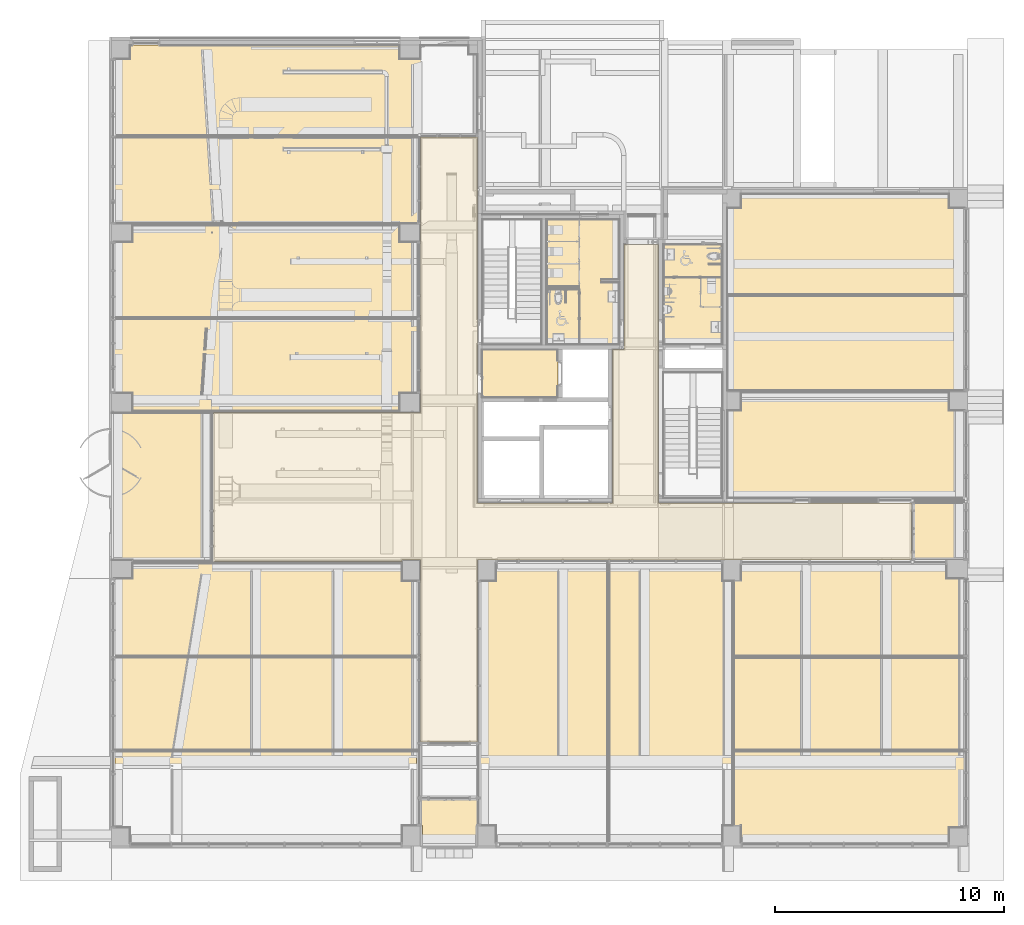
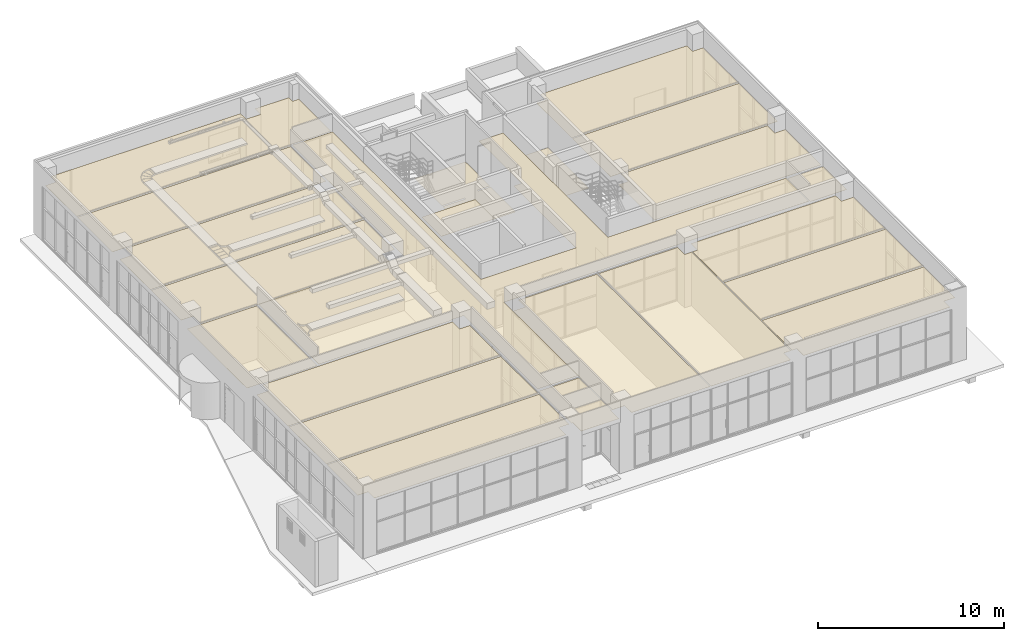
# One storey, part 83 of 100: 22 coverings.
"""IFC2X3 building model written with IfcOpenShell, lengths in millimetres."""

from ifc_helpers import new_model, entity, si_unit, converted_unit, derived_unit, direction, frame, frame_2d, origin, origin_2d_with_axis, place, context, subcontext, project, spatial, polyline, rectangle, outline, extrude, material, layer, layer_set, layer_usage, type_object, element, save


model = new_model("IFC2X3")

# Units and contexts
model_context = context("Model", 3, precision=0.01, world=origin(), true_north=direction((6.123031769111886e-17, 1.0)))
body_context = subcontext(model_context, "Body", "Model", "MODEL_VIEW")
ifc_project = project(units=[si_unit("LENGTHUNIT", "METRE", prefix="MILLI"), si_unit("AREAUNIT", "SQUARE_METRE"), si_unit("VOLUMEUNIT", "CUBIC_METRE"), converted_unit("PLANEANGLEUNIT", "DEGREE", entity("IfcRatioMeasure", 0.017453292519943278), si_unit("PLANEANGLEUNIT", "RADIAN"), dimensions=[0, 0, 0, 0, 0, 0, 0]), si_unit("MASSUNIT", "GRAM", prefix="KILO"), derived_unit("MASSDENSITYUNIT", [(si_unit("MASSUNIT", "GRAM", prefix="KILO"), 1), (si_unit("LENGTHUNIT", "METRE"), -3)]), derived_unit("MOMENTOFINERTIAUNIT", [(si_unit("LENGTHUNIT", "METRE"), 4)]), si_unit("TIMEUNIT", "SECOND"), si_unit("FREQUENCYUNIT", "HERTZ"), si_unit("THERMODYNAMICTEMPERATUREUNIT", "DEGREE_CELSIUS"), derived_unit("THERMALTRANSMITTANCEUNIT", [(si_unit("MASSUNIT", "GRAM", prefix="KILO"), 1), (si_unit("THERMODYNAMICTEMPERATUREUNIT", "KELVIN"), -1), (si_unit("TIMEUNIT", "SECOND"), -3)]), derived_unit("VOLUMETRICFLOWRATEUNIT", [(si_unit("LENGTHUNIT", "METRE"), 3), (si_unit("TIMEUNIT", "SECOND"), -1)]), derived_unit("MASSFLOWRATEUNIT", [(si_unit("MASSUNIT", "GRAM", prefix="KILO"), 1), (si_unit("TIMEUNIT", "SECOND"), -1)]), derived_unit("ROTATIONALFREQUENCYUNIT", [(si_unit("TIMEUNIT", "SECOND"), -1)]), si_unit("ELECTRICCURRENTUNIT", "AMPERE"), si_unit("ELECTRICVOLTAGEUNIT", "VOLT"), si_unit("POWERUNIT", "WATT"), si_unit("FORCEUNIT", "NEWTON", prefix="KILO"), si_unit("ILLUMINANCEUNIT", "LUX"), si_unit("LUMINOUSFLUXUNIT", "LUMEN"), si_unit("LUMINOUSINTENSITYUNIT", "CANDELA"), derived_unit("USERDEFINED", [(si_unit("MASSUNIT", "GRAM", prefix="KILO"), -1), (si_unit("LENGTHUNIT", "METRE"), -2), (si_unit("TIMEUNIT", "SECOND"), 3), (si_unit("LUMINOUSFLUXUNIT", "LUMEN"), 1)]), derived_unit("SOUNDPOWERUNIT", [(si_unit("MASSUNIT", "GRAM", prefix="KILO"), 1), (si_unit("LENGTHUNIT", "METRE"), 2), (si_unit("TIMEUNIT", "SECOND"), -3)]), derived_unit("SOUNDPRESSUREUNIT", [(si_unit("MASSUNIT", "GRAM", prefix="KILO"), 1), (si_unit("LENGTHUNIT", "METRE"), -1), (si_unit("TIMEUNIT", "SECOND"), -2)]), derived_unit("LINEARVELOCITYUNIT", [(si_unit("LENGTHUNIT", "METRE"), 1), (si_unit("TIMEUNIT", "SECOND"), -1)]), si_unit("PRESSUREUNIT", "PASCAL"), derived_unit("USERDEFINED", [(si_unit("LENGTHUNIT", "METRE"), -2), (si_unit("MASSUNIT", "GRAM", prefix="KILO"), 1), (si_unit("TIMEUNIT", "SECOND"), -2)]), derived_unit("LINEARFORCEUNIT", [(si_unit("MASSUNIT", "GRAM", prefix="KILO"), 1), (si_unit("LENGTHUNIT", "METRE"), 1), (si_unit("TIMEUNIT", "SECOND"), -2), (si_unit("LENGTHUNIT", "METRE"), -1)]), derived_unit("PLANARFORCEUNIT", [(si_unit("MASSUNIT", "GRAM", prefix="KILO"), 1), (si_unit("LENGTHUNIT", "METRE"), 1), (si_unit("TIMEUNIT", "SECOND"), -2), (si_unit("LENGTHUNIT", "METRE"), -2)])], contexts=[model_context])

# Site, building, storey, space
site_placement = place(None, frame((-14167.972527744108, -657.2125860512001, 0.0)))
site = spatial("IfcSite", under=ifc_project, at=site_placement, Name="Default", CompositionType="ELEMENT")
building_placement = place(site_placement, origin())
building = spatial("IfcBuilding", under=site, at=building_placement, Name="Sample Building", CompositionType="ELEMENT")
storey_placement = place(building_placement, origin())
storey = spatial("IfcBuildingStorey", under=building, at=storey_placement, Name="지상 1층", CompositionType="ELEMENT", Elevation=0.0)
space_1_placement = place(storey_placement, origin())
space_1 = spatial("IfcSpace", under=storey, at=space_1_placement, Name="171", CompositionType="ELEMENT", InteriorOrExteriorSpace="INTERNAL")

# Covering
ifc_material_1 = material(Name="CE782-경량철골천장틀(M-Bar) 천장")
ifc_layer_1 = layer(ifc_material_1, 1.0)
ifc_material_2 = material(Name="CE761-열경화성수지 천장 (300x300x1.2mm)")
ifc_layer_2 = layer(ifc_material_2, 1.0)
ifc_layer_set_1 = layer_set([ifc_layer_1, ifc_layer_2], Name="복합 천장:A1-45-06A-경량철골천장틀(M-Bar), 열경화성수지(300x300x1.2mm) (2mm) TYPE-D")
ifc_layer_usage_1 = layer_usage(ifc_layer_set_1, "AXIS3", "POSITIVE", 0.0)
covering_type_1 = type_object("IfcCoveringType", Name="복합 천장:A1-45-06A-경량철골천장틀(M-Bar), 열경화성수지(300x300x1.2mm) (2mm) TYPE-D", PredefinedType="CEILING")
covering_1_placement = place(space_1_placement, origin())
element("IfcCovering", 1, at=covering_1_placement, inside=space_1, type_object=covering_type_1, material=ifc_layer_usage_1, Name="복합 천장:A1-45-06A-경량철골천장틀(M-Bar), 열경화성수지(300x300x1.2mm) (2mm) TYPE-D", ObjectType="복합 천장:A1-45-06A-경량철골천장틀(M-Bar), 열경화성수지(300x300x1.2mm) (2mm) TYPE-D", PredefinedType="CEILING", context=body_context, shape_type="SweptSolid", body=[
    extrude(rectangle(XDim=2600.0000000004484, YDim=4399.999996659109, at=origin_2d_with_axis()), frame((39467.963798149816, 24657.212296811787, 1690.0), z_axis=(0.0, 0.0, 1.0), x_axis=(-1.0, 0.0, 0.0)), (0.0, 0.0, 1.0), 2.0000000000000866),
])

# Space
space_2_placement = place(storey_placement, origin())
space_2 = spatial("IfcSpace", under=storey, at=space_2_placement, Name="148", CompositionType="ELEMENT", InteriorOrExteriorSpace="INTERNAL")

# Covering
ifc_layer_3 = layer(ifc_material_1, 1.0)
ifc_material_3 = material(Name="CE742-무석면텍스 천장 (시멘트계천장재) (6mm)")
ifc_layer_4 = layer(ifc_material_3, 6.0)
ifc_layer_set_2 = layer_set([ifc_layer_3, ifc_layer_4], Name="복합 천장:A1-44-11A-경량철골천장틀(M-Bar), 무석면텍스 (7mm)")
ifc_layer_usage_2 = layer_usage(ifc_layer_set_2, "AXIS3", "POSITIVE", 0.0)
covering_type_2 = type_object("IfcCoveringType", Name="복합 천장:A1-44-11A-경량철골천장틀(M-Bar), 무석면텍스 (7mm)", PredefinedType="CEILING")
covering_2_placement = place(space_2_placement, origin())
element("IfcCovering", 2, at=covering_2_placement, inside=space_2, type_object=covering_type_2, material=ifc_layer_usage_2, Name="복합 천장:A1-44-11A-경량철골천장틀(M-Bar), 무석면텍스 (7mm)", ObjectType="복합 천장:A1-44-11A-경량철골천장틀(M-Bar), 무석면텍스 (7mm)", PredefinedType="CEILING", context=body_context, shape_type="SweptSolid", body=[
    extrude(outline(polyline([(-1069.6379425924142, -10565.40828236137), (2292.8965898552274, -10565.40828236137), (2292.896589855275, 2709.6091036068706), (2255.396589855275, 2709.6091036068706), (2255.396589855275, 2809.6091036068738), (2199.8965898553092, 2809.6091036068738), (2199.8965898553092, 5307.762426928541), (-1269.637970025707, 5307.762426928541), (-1269.637970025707, 4909.600374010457), (-1669.6379571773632, 4909.600374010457), (-1669.6379571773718, 2809.6091036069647), (-1069.6379425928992, 2809.6091036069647), (-1069.6379425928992, 1909.6091036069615), (-1669.6379571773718, 1909.6091036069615), (-1669.6379571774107, -9890.390933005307), (-1069.6379425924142, -9890.390933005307), (-1069.6379425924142, -10565.40828236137)])), frame((24758.363387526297, 33887.57433796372, 3580.0), z_axis=(0.0, 0.0, 1.0), x_axis=(0.0, -1.0, 0.0)), (0.0, 0.0, 1.0), 7.000000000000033),
])

# Space
space_3_placement = place(storey_placement, origin())
space_3 = spatial("IfcSpace", under=storey, at=space_3_placement, Name="166", CompositionType="ELEMENT", InteriorOrExteriorSpace="INTERNAL")

# Covering
ifc_layer_usage_3 = layer_usage(ifc_layer_set_2, "AXIS3", "POSITIVE", 0.0)
covering_type_3 = type_object("IfcCoveringType", Name="복합 천장:A1-44-11A-경량철골천장틀(M-Bar), 무석면텍스 (7mm)", PredefinedType="CEILING")
covering_3_placement = place(space_3_placement, origin())
element("IfcCovering", 3, at=covering_3_placement, inside=space_3, type_object=covering_type_3, material=ifc_layer_usage_3, Name="복합 천장:A1-44-11A-경량철골천장틀(M-Bar), 무석면텍스 (7mm)", ObjectType="복합 천장:A1-44-11A-경량철골천장틀(M-Bar), 무석면텍스 (7mm)", PredefinedType="CEILING", context=body_context, shape_type="SweptSolid", body=[
    extrude(outline(polyline([(-1994.7580651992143, 1931.6594011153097), (13994.116735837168, 1931.6594011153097), (13994.116735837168, 4429.812724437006), (1946.6166121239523, 4429.812724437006), (1946.6166121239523, 13484.82141742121), (-4545.848426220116, 13484.82141742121), (-4545.848426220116, 5229.812724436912), (-4490.848704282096, 5229.812724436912), (-4490.848704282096, 4429.812724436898), (-12445.883387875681, 4429.812724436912), (-12445.883387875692, 1929.812724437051), (-4490.848629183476, 1929.8127244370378), (-4490.848629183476, -17025.187275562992), (-1990.848717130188, -17025.187275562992), (-1990.848717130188, -5970.178582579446), (9309.151282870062, -5970.178582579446), (9309.151282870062, -4470.178582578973), (4709.151299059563, -4470.178582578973), (4709.151299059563, -3970.187275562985), (-1994.7580651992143, -3970.1872755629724), (-1994.7580651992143, 1931.6594011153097)])), frame((31997.785215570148, 17548.06101227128, 3630.0), z_axis=(0.0, 0.0, 1.0), x_axis=(0.0, 1.0, 0.0)), (0.0, 0.0, 1.0), 7.000000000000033),
])

# Space
space_4_placement = place(storey_placement, origin())
space_4 = spatial("IfcSpace", under=storey, at=space_4_placement, Name="149", CompositionType="ELEMENT", InteriorOrExteriorSpace="INTERNAL")

# Covering
ifc_layer_usage_4 = layer_usage(ifc_layer_set_2, "AXIS3", "POSITIVE", 0.0)
covering_type_4 = type_object("IfcCoveringType", Name="복합 천장:A1-44-11A-경량철골천장틀(M-Bar), 무석면텍스 (7mm)", PredefinedType="CEILING")
covering_4_placement = place(space_4_placement, origin())
element("IfcCovering", 4, at=covering_4_placement, inside=space_4, type_object=covering_type_4, material=ifc_layer_usage_4, Name="복합 천장:A1-44-11A-경량철골천장틀(M-Bar), 무석면텍스 (7mm)", ObjectType="복합 천장:A1-44-11A-경량철골천장틀(M-Bar), 무석면텍스 (7mm)", PredefinedType="CEILING", context=body_context, shape_type="SweptSolid", body=[
    extrude(rectangle(XDim=13275.025209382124, YDim=3774.9651620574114, at=frame_2d((1.4097167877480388e-11, -4.320099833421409e-12), x_axis=(1.0, 0.0))), frame((20830.46770985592, 29644.695167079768, 3580.0)), (0.0, 0.0, 1.0), 7.000000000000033),
])

# Space
space_5_placement = place(storey_placement, origin())
space_5 = spatial("IfcSpace", under=storey, at=space_5_placement, Name="150", CompositionType="ELEMENT", InteriorOrExteriorSpace="INTERNAL")

# Covering
ifc_layer_usage_5 = layer_usage(ifc_layer_set_2, "AXIS3", "POSITIVE", 0.0)
covering_type_5 = type_object("IfcCoveringType", Name="복합 천장:A1-44-11A-경량철골천장틀(M-Bar), 무석면텍스 (7mm)", PredefinedType="CEILING")
covering_5_placement = place(space_5_placement, origin())
element("IfcCovering", 5, at=covering_5_placement, inside=space_5, type_object=covering_type_5, material=ifc_layer_usage_5, Name="복합 천장:A1-44-11A-경량철골천장틀(M-Bar), 무석면텍스 (7mm)", ObjectType="복합 천장:A1-44-11A-경량철골천장틀(M-Bar), 무석면텍스 (7mm)", PredefinedType="CEILING", context=body_context, shape_type="SweptSolid", body=[
    extrude(outline(polyline([(-1378.1338794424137, 5856.093797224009), (-1378.1338794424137, -5843.906294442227), (-640.6336013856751, -5843.906294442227), (-640.6336013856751, -6643.914081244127), (2659.401082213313, -6643.914081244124), (2659.40108221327, 6631.72657846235), (-640.63360138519, 6631.72657846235), (-640.63360138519, 5856.093797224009), (-1378.1338794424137, 5856.093797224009)])), frame((20824.066233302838, 26316.578706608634, 3580.0), z_axis=(0.0, 0.0, -1.0), x_axis=(0.0, -1.0, 0.0)), (0.0, 0.0, -1.0), 7.000000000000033),
])

# Space
space_6_placement = place(storey_placement, origin())
space_6 = spatial("IfcSpace", under=storey, at=space_6_placement, Name="151", CompositionType="ELEMENT", InteriorOrExteriorSpace="INTERNAL")

# Covering
ifc_layer_usage_6 = layer_usage(ifc_layer_set_2, "AXIS3", "POSITIVE", 0.0)
covering_type_6 = type_object("IfcCoveringType", Name="복합 천장:A1-44-11A-경량철골천장틀(M-Bar), 무석면텍스 (7mm)", PredefinedType="CEILING")
covering_6_placement = place(space_6_placement, origin())
element("IfcCovering", 6, at=covering_6_placement, inside=space_6, type_object=covering_type_6, material=ifc_layer_usage_6, Name="복합 천장:A1-44-11A-경량철골천장틀(M-Bar), 무석면텍스 (7mm)", ObjectType="복합 천장:A1-44-11A-경량철골천장틀(M-Bar), 무석면텍스 (7mm)", PredefinedType="CEILING", context=body_context, shape_type="SweptSolid", body=[
    extrude(outline(polyline([(-5856.093797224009, -1409.3923417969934), (5843.906294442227, -1409.3923417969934), (5843.906294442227, -609.357658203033), (6643.914081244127, -609.3576582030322), (6643.91408124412, 2628.107658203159), (-6631.726578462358, 2628.107658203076), (-6631.726578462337, -609.3576582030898), (-5856.093797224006, -609.357658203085), (-5856.093797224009, -1409.3923417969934)])), frame((20824.066233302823, 20966.569966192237, 3580.0)), (0.0, 0.0, 1.0), 7.000000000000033),
])

# Space
space_7_placement = place(storey_placement, origin())
space_7 = spatial("IfcSpace", under=storey, at=space_7_placement, Name="153", CompositionType="ELEMENT", InteriorOrExteriorSpace="INTERNAL")

# Covering
ifc_layer_usage_7 = layer_usage(ifc_layer_set_2, "AXIS3", "POSITIVE", 0.0)
covering_type_7 = type_object("IfcCoveringType", Name="복합 천장:A1-44-11A-경량철골천장틀(M-Bar), 무석면텍스 (7mm)", PredefinedType="CEILING")
covering_7_placement = place(space_7_placement, origin())
element("IfcCovering", 7, at=covering_7_placement, inside=space_7, type_object=covering_type_7, material=ifc_layer_usage_7, Name="복합 천장:A1-44-11A-경량철골천장틀(M-Bar), 무석면텍스 (7mm)", ObjectType="복합 천장:A1-44-11A-경량철골천장틀(M-Bar), 무석면텍스 (7mm)", PredefinedType="CEILING", context=body_context, shape_type="SweptSolid", body=[
    extrude(outline(polyline([(-711.2586020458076, -6627.476573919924), (2688.776084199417, -6627.476573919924), (2688.7760841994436, 6567.164085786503), (-611.2586020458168, 6567.164085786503), (-611.2586020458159, 5930.156262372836), (-1366.258880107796, 5930.156262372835), (-1366.2588801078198, -5869.843774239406), (-711.2586020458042, -5869.843774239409), (-711.2586020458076, -6627.476573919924)])), frame((20837.8162287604, 11545.953705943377, 3580.0), z_axis=(0.0, 0.0, 1.0), x_axis=(0.0, -1.0, 0.0)), (0.0, 0.0, 1.0), 7.000000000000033),
])

# Space
space_8_placement = place(storey_placement, origin())
space_8 = spatial("IfcSpace", under=storey, at=space_8_placement, Name="154", CompositionType="ELEMENT", InteriorOrExteriorSpace="INTERNAL")

# Covering
ifc_layer_usage_8 = layer_usage(ifc_layer_set_2, "AXIS3", "POSITIVE", 0.0)
covering_type_8 = type_object("IfcCoveringType", Name="복합 천장:A1-44-11A-경량철골천장틀(M-Bar), 무석면텍스 (7mm)", PredefinedType="CEILING")
covering_8_placement = place(space_8_placement, origin())
element("IfcCovering", 8, at=covering_8_placement, inside=space_8, type_object=covering_type_8, material=ifc_layer_usage_8, Name="복합 천장:A1-44-11A-경량철골천장틀(M-Bar), 무석면텍스 (7mm)", ObjectType="복합 천장:A1-44-11A-경량철골천장틀(M-Bar), 무석면텍스 (7mm)", PredefinedType="CEILING", context=body_context, shape_type="SweptSolid", body=[
    extrude(rectangle(XDim=13194.640659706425, YDim=4037.500001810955, at=frame_2d((-1.3642420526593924e-12, 9.777068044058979e-12), x_axis=(1.0, 0.0))), frame((20807.659984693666, 6775.927620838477, 3580.0)), (0.0, 0.0, 1.0), 7.000000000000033),
])

# Space
space_9_placement = place(storey_placement, origin())
space_9 = spatial("IfcSpace", under=storey, at=space_9_placement, Name="155", CompositionType="ELEMENT", InteriorOrExteriorSpace="INTERNAL")

# Covering
ifc_layer_usage_9 = layer_usage(ifc_layer_set_2, "AXIS3", "POSITIVE", 0.0)
covering_type_9 = type_object("IfcCoveringType", Name="복합 천장:A1-44-11A-경량철골천장틀(M-Bar), 무석면텍스 (7mm)", PredefinedType="CEILING")
covering_9_placement = place(space_9_placement, origin())
element("IfcCovering", 9, at=covering_9_placement, inside=space_9, type_object=covering_type_9, material=ifc_layer_usage_9, Name="복합 천장:A1-44-11A-경량철골천장틀(M-Bar), 무석면텍스 (7mm)", ObjectType="복합 천장:A1-44-11A-경량철골천장틀(M-Bar), 무석면텍스 (7mm)", PredefinedType="CEILING", context=body_context, shape_type="SweptSolid", body=[
    extrude(outline(polyline([(-2646.8491981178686, -6602.476573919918), (690.6165357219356, -6602.476573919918), (690.6165357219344, -5944.843774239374), (1365.6161266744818, -5944.8437742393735), (1365.6161266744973, 5955.156262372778), (590.6165357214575, 5955.156262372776), (590.6165357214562, 6592.164085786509), (-2646.8491981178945, 6592.164085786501), (-2646.8491981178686, -6602.476573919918)])), frame((20812.816228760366, 2047.828421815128, 3580.0), z_axis=(0.0, 0.0, 1.0), x_axis=(0.0, -1.0, 0.0)), (0.0, 0.0, 1.0), 7.000000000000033),
])

# Space
space_10_placement = place(storey_placement, origin())
space_10 = spatial("IfcSpace", under=storey, at=space_10_placement, Name="156", CompositionType="ELEMENT", InteriorOrExteriorSpace="INTERNAL")

# Covering
ifc_layer_usage_10 = layer_usage(ifc_layer_set_2, "AXIS3", "POSITIVE", 0.0)
covering_type_10 = type_object("IfcCoveringType", Name="복합 천장:A1-44-11A-경량철골천장틀(M-Bar), 무석면텍스 (7mm)", PredefinedType="CEILING")
covering_10_placement = place(space_10_placement, origin())
element("IfcCovering", 10, at=covering_10_placement, inside=space_10, type_object=covering_type_10, material=ifc_layer_usage_10, Name="복합 천장:A1-44-11A-경량철골천장틀(M-Bar), 무석면텍스 (7mm)", ObjectType="복합 천장:A1-44-11A-경량철골천장틀(M-Bar), 무석면텍스 (7mm)", PredefinedType="CEILING", context=body_context, shape_type="SweptSolid", body=[
    extrude(outline(polyline([(-3854.3717401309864, -6100.625211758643), (1033.1239133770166, -6100.625211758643), (1033.1239133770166, -5345.624933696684), (1788.1239133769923, -5345.624933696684), (1788.1239133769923, 5354.375066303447), (1033.1239133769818, 5354.375066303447), (1033.1239133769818, 6091.875079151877), (-3854.3717401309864, 6091.875079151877), (-3854.3717401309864, -6100.625211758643)])), frame((31901.096404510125, 6811.5873742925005, 3580.0), z_axis=(0.0, 0.0, 1.0), x_axis=(-1.0, 0.0, 0.0)), (0.0, 0.0, 1.0), 7.000000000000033),
])

# Space
space_11_placement = place(storey_placement, origin())
space_11 = spatial("IfcSpace", under=storey, at=space_11_placement, Name="157", CompositionType="ELEMENT", InteriorOrExteriorSpace="INTERNAL")

# Covering
ifc_layer_usage_11 = layer_usage(ifc_layer_set_2, "AXIS3", "POSITIVE", 0.0)
covering_type_11 = type_object("IfcCoveringType", Name="복합 천장:A1-44-11A-경량철골천장틀(M-Bar), 무석면텍스 (7mm)", PredefinedType="CEILING")
covering_11_placement = place(space_11_placement, origin())
element("IfcCovering", 11, at=covering_11_placement, inside=space_11, type_object=covering_type_11, material=ifc_layer_usage_11, Name="복합 천장:A1-44-11A-경량철골천장틀(M-Bar), 무석면텍스 (7mm)", ObjectType="복합 천장:A1-44-11A-경량철골천장틀(M-Bar), 무석면텍스 (7mm)", PredefinedType="CEILING", context=body_context, shape_type="SweptSolid", body=[
    extrude(outline(polyline([(-6100.379565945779, -3821.878259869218), (6092.12072496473, -3821.878259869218), (6092.120724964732, 1128.1260866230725), (5354.6207121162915, 1128.1260866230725), (5354.6207121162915, 1565.626086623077), (-5346.361871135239, 1565.626086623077), (-5346.361871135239, 1128.1260866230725), (-6100.379565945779, 1128.1260866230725), (-6100.379565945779, -3821.878259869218)])), frame((39639.84640451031, 6811.833020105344, 3580.0), z_axis=(0.0, 0.0, 1.0), x_axis=(0.0, -1.0, 0.0)), (0.0, 0.0, 1.0), 7.000000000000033),
])

# Space
space_12_placement = place(storey_placement, origin())
space_12 = spatial("IfcSpace", under=storey, at=space_12_placement, Name="158", CompositionType="ELEMENT", InteriorOrExteriorSpace="INTERNAL")

# Covering
ifc_layer_usage_12 = layer_usage(ifc_layer_set_2, "AXIS3", "POSITIVE", 0.0)
covering_type_12 = type_object("IfcCoveringType", Name="복합 천장:A1-44-11A-경량철골천장틀(M-Bar), 무석면텍스 (7mm)", PredefinedType="CEILING")
covering_12_placement = place(space_12_placement, origin())
element("IfcCovering", 12, at=covering_12_placement, inside=space_12, type_object=covering_type_12, material=ifc_layer_usage_12, Name="복합 천장:A1-44-11A-경량철골천장틀(M-Bar), 무석면텍스 (7mm)", ObjectType="복합 천장:A1-44-11A-경량철골천장틀(M-Bar), 무석면텍스 (7mm)", PredefinedType="CEILING", context=body_context, shape_type="SweptSolid", body=[
    extrude(outline(polyline([(-5131.243504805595, -2637.474090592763), (4943.747832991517, -2637.474090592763), (4943.747832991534, 599.991640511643), (4643.747832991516, 599.9916405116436), (4643.747832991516, 1337.491231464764), (-4456.252161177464, 1337.491231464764), (-4456.252161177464, 699.9912186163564), (-5131.243504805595, 699.9912186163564), (-5131.243504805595, -2637.474090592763)])), frame((46211.72032412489, 2057.2035266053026, 3580.0), z_axis=(0.0, 0.0, 1.0), x_axis=(-1.0, 0.0, 0.0)), (0.0, 0.0, 1.0), 7.000000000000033),
])

# Space
space_13_placement = place(storey_placement, origin())
space_13 = spatial("IfcSpace", under=storey, at=space_13_placement, Name="159", CompositionType="ELEMENT", InteriorOrExteriorSpace="INTERNAL")

# Covering
ifc_layer_usage_13 = layer_usage(ifc_layer_set_2, "AXIS3", "POSITIVE", 0.0)
covering_type_13 = type_object("IfcCoveringType", Name="복합 천장:A1-44-11A-경량철골천장틀(M-Bar), 무석면텍스 (7mm)", PredefinedType="CEILING")
covering_13_placement = place(space_13_placement, origin())
element("IfcCovering", 13, at=covering_13_placement, inside=space_13, type_object=covering_type_13, material=ifc_layer_usage_13, Name="복합 천장:A1-44-11A-경량철골천장틀(M-Bar), 무석면텍스 (7mm)", ObjectType="복합 천장:A1-44-11A-경량철골천장틀(M-Bar), 무석면텍스 (7mm)", PredefinedType="CEILING", context=body_context, shape_type="SweptSolid", body=[
    extrude(rectangle(XDim=4037.5000022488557, YDim=10074.991337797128, at=frame_2d((-1.432454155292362e-11, 0.0), x_axis=(1.0, 0.0))), frame((46305.46816003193, 6775.927618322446, 3580.0), z_axis=(0.0, 0.0, 1.0), x_axis=(0.0, 1.0, 0.0)), (0.0, 0.0, 1.0), 7.000000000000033),
])

# Space
space_14_placement = place(storey_placement, origin())
space_14 = spatial("IfcSpace", under=storey, at=space_14_placement, Name="160", CompositionType="ELEMENT", InteriorOrExteriorSpace="INTERNAL")

# Covering
ifc_layer_usage_14 = layer_usage(ifc_layer_set_2, "AXIS3", "POSITIVE", 0.0)
covering_type_14 = type_object("IfcCoveringType", Name="복합 천장:A1-44-11A-경량철골천장틀(M-Bar), 무석면텍스 (7mm)", PredefinedType="CEILING")
covering_14_placement = place(space_14_placement, origin())
element("IfcCovering", 14, at=covering_14_placement, inside=space_14, type_object=covering_type_14, material=ifc_layer_usage_14, Name="복합 천장:A1-44-11A-경량철골천장틀(M-Bar), 무석면텍스 (7mm)", ObjectType="복합 천장:A1-44-11A-경량철골천장틀(M-Bar), 무석면텍스 (7mm)", PredefinedType="CEILING", context=body_context, shape_type="SweptSolid", body=[
    extrude(outline(polyline([(-4381.252161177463, -1324.9825519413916), (4618.747832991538, -1324.9825519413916), (4618.747832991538, -625.0172382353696), (4918.747832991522, -625.0172382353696), (4918.747832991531, 2675.017450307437), (-5156.243504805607, 2675.0174503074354), (-5156.243504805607, -725.0176601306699), (-4381.252161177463, -725.0176601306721), (-4381.252161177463, -1324.9825519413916)])), frame((46186.720324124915, 11532.195069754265, 3580.0), z_axis=(0.0, 0.0, 1.0), x_axis=(-1.0, 0.0, 0.0)), (0.0, 0.0, 1.0), 7.000000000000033),
])

# Space
space_15_placement = place(storey_placement, origin())
space_15 = spatial("IfcSpace", under=storey, at=space_15_placement, Name="161", CompositionType="ELEMENT", InteriorOrExteriorSpace="INTERNAL")

# Covering
ifc_layer_usage_15 = layer_usage(ifc_layer_set_2, "AXIS3", "POSITIVE", 0.0)
covering_type_15 = type_object("IfcCoveringType", Name="복합 천장:A1-44-11A-경량철골천장틀(M-Bar), 무석면텍스 (7mm)", PredefinedType="CEILING")
covering_15_placement = place(space_15_placement, origin())
element("IfcCovering", 15, at=covering_15_placement, inside=space_15, type_object=covering_type_15, material=ifc_layer_usage_15, Name="복합 천장:A1-44-11A-경량철골천장틀(M-Bar), 무석면텍스 (7mm)", ObjectType="복합 천장:A1-44-11A-경량철골천장틀(M-Bar), 무석면텍스 (7mm)", PredefinedType="CEILING", context=body_context, shape_type="SweptSolid", body=[
    extrude(outline(polyline([(-4531.260886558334, -1558.7499844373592), (4568.7478569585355, -1558.7499844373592), (4568.7478569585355, -758.7499844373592), (5168.756530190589, -758.7499844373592), (5168.756530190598, 3078.7500284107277), (-5206.243500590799, 3078.7500284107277), (-5206.243500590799, -761.2500595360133), (-4531.260886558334, -761.2500595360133), (-4531.260886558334, -1558.7499844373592)])), frame((46136.720328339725, 18835.96232355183, 3580.0), z_axis=(0.0, 0.0, 1.0), x_axis=(-1.0, 0.0, 0.0)), (0.0, 0.0, 1.0), 7.000000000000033),
])

# Space
space_16_placement = place(storey_placement, origin())
space_16 = spatial("IfcSpace", under=storey, at=space_16_placement, Name="162", CompositionType="ELEMENT", InteriorOrExteriorSpace="INTERNAL")

# Covering
ifc_layer_usage_16 = layer_usage(ifc_layer_set_2, "AXIS3", "POSITIVE", 0.0)
covering_type_16 = type_object("IfcCoveringType", Name="복합 천장:A1-44-11A-경량철골천장틀(M-Bar), 무석면텍스 (7mm)", PredefinedType="CEILING")
covering_16_placement = place(space_16_placement, origin())
element("IfcCovering", 16, at=covering_16_placement, inside=space_16, type_object=covering_type_16, material=ifc_layer_usage_16, Name="복합 천장:A1-44-11A-경량철골천장틀(M-Bar), 무석면텍스 (7mm)", ObjectType="복합 천장:A1-44-11A-경량철골천장틀(M-Bar), 무석면텍스 (7mm)", PredefinedType="CEILING", context=body_context, shape_type="SweptSolid", body=[
    extrude(rectangle(XDim=10375.000030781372, YDim=4137.465339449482, at=frame_2d((8.640199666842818e-12, 4.320099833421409e-12), x_axis=(1.0, 0.0))), frame((46155.46381353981, 22525.944977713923, 3580.0)), (0.0, 0.0, 1.0), 7.000000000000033),
])

# Space
space_17_placement = place(storey_placement, origin())
space_17 = spatial("IfcSpace", under=storey, at=space_17_placement, Name="163", CompositionType="ELEMENT", InteriorOrExteriorSpace="INTERNAL")

# Covering
ifc_layer_usage_17 = layer_usage(ifc_layer_set_2, "AXIS3", "POSITIVE", 0.0)
covering_type_17 = type_object("IfcCoveringType", Name="복합 천장:A1-44-11A-경량철골천장틀(M-Bar), 무석면텍스 (7mm)", PredefinedType="CEILING")
covering_17_placement = place(space_17_placement, origin())
element("IfcCovering", 17, at=covering_17_placement, inside=space_17, type_object=covering_type_17, material=ifc_layer_usage_17, Name="복합 천장:A1-44-11A-경량철골천장틀(M-Bar), 무석면텍스 (7mm)", ObjectType="복합 천장:A1-44-11A-경량철골천장틀(M-Bar), 무석면텍스 (7mm)", PredefinedType="CEILING", context=body_context, shape_type="SweptSolid", body=[
    extrude(outline(polyline([(-1400.008633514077, 4568.747842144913), (-1400.0086335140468, -4531.26088162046), (-800.0087343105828, -4531.26088162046), (-800.0087343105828, -5206.243495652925), (3000.0260141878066, -5206.243495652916), (3000.0260141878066, 5168.756535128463), (-800.008646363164, 5168.756535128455), (-800.008646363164, 4568.747842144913), (-1400.008633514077, 4568.747842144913)])), frame((46136.7203332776, 27657.203661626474, 3580.0), z_axis=(0.0, 0.0, -1.0), x_axis=(0.0, -1.0, 0.0)), (0.0, 0.0, -1.0), 7.000000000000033),
])

# Space
space_18_placement = place(storey_placement, origin())
space_18 = spatial("IfcSpace", under=storey, at=space_18_placement, Name="167", CompositionType="ELEMENT", InteriorOrExteriorSpace="INTERNAL")

# Covering
ifc_layer_usage_18 = layer_usage(ifc_layer_set_2, "AXIS3", "POSITIVE", 0.0)
covering_type_18 = type_object("IfcCoveringType", Name="복합 천장:A1-44-11A-경량철골천장틀(M-Bar), 무석면텍스 (7mm)", PredefinedType="CEILING")
covering_18_placement = place(space_18_placement, origin())
element("IfcCovering", 18, at=covering_18_placement, inside=space_18, type_object=covering_type_18, material=ifc_layer_usage_18, Name="복합 천장:A1-44-11A-경량철골천장틀(M-Bar), 무석면텍스 (7mm)", ObjectType="복합 천장:A1-44-11A-경량철골천장틀(M-Bar), 무석면텍스 (7mm)", PredefinedType="CEILING", context=body_context, shape_type="SweptSolid", body=[
    extrude(outline(polyline([(-4309.976784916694, -1751.675347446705), (2127.488531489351, -1751.675347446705), (2127.488531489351, -851.6579980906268), (2182.488253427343, -851.657998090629), (2182.488253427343, 2603.33334553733), (-4309.976784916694, 2603.33334553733), (-4309.976784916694, -1751.675347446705)])), frame((15819.630452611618, 15184.700839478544, 3580.0), z_axis=(0.0, 0.0, 1.0), x_axis=(0.0, -1.0, 0.0)), (0.0, 0.0, 1.0), 7.000000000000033),
])

# Space
space_19_placement = place(storey_placement, origin())
space_19 = spatial("IfcSpace", under=storey, at=space_19_placement, Name="86", CompositionType="ELEMENT", InteriorOrExteriorSpace="INTERNAL")

# Covering
ifc_layer_usage_19 = layer_usage(ifc_layer_set_2, "AXIS3", "POSITIVE", 0.0)
covering_type_19 = type_object("IfcCoveringType", Name="복합 천장:A1-44-11A-경량철골천장틀(M-Bar), 무석면텍스 (7mm)", PredefinedType="CEILING")
covering_19_placement = place(space_19_placement, origin())
element("IfcCovering", 19, at=covering_19_placement, inside=space_19, type_object=covering_type_19, material=ifc_layer_usage_19, Name="복합 천장:A1-44-11A-경량철골천장틀(M-Bar), 무석면텍스 (7mm)", ObjectType="복합 천장:A1-44-11A-경량철골천장틀(M-Bar), 무석면텍스 (7mm)", PredefinedType="CEILING", context=body_context, shape_type="SweptSolid", body=[
    extrude(rectangle(XDim=2264.991337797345, YDim=2499.999912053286, at=frame_2d((0.0, -1.2960299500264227e-11), x_axis=(1.0, 0.0))), frame((50245.46816003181, 14307.212339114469, 3580.0), z_axis=(0.0, 0.0, 1.0), x_axis=(-1.0, 0.0, 0.0)), (0.0, 0.0, 1.0), 7.000000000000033),
])

# Space
space_20_placement = place(storey_placement, origin())
space_20 = spatial("IfcSpace", under=storey, at=space_20_placement, Name="172", CompositionType="ELEMENT", InteriorOrExteriorSpace="INTERNAL")

# Covering
ifc_layer_usage_20 = layer_usage(ifc_layer_set_2, "AXIS3", "POSITIVE", 0.0)
covering_type_20 = type_object("IfcCoveringType", Name="복합 천장:A1-44-11A-경량철골천장틀(M-Bar), 무석면텍스 (7mm)", PredefinedType="CEILING")
covering_20_placement = place(space_20_placement, origin())
element("IfcCovering", 20, at=covering_20_placement, inside=space_20, type_object=covering_type_20, material=ifc_layer_usage_20, Name="복합 천장:A1-44-11A-경량철골천장틀(M-Bar), 무석면텍스 (7mm)", ObjectType="복합 천장:A1-44-11A-경량철골천장틀(M-Bar), 무석면텍스 (7mm)", PredefinedType="CEILING", context=body_context, shape_type="SweptSolid", body=[
    extrude(outline(polyline([(-1549.9908863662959, 1170.0086541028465), (-1549.9908863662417, -1170.0086678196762), (-649.9916173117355, -1170.0086678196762), (-649.9916173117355, -1250.008667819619), (2849.974120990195, -1250.008667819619), (2849.974120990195, 1250.0086815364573), (-649.9916173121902, 1250.008681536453), (-649.9916173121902, 1170.0086541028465), (-1549.9908863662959, 1170.0086541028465)])), frame((28817.9638095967, 2107.2035034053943, 3580.0), z_axis=(0.0, 0.0, -1.0), x_axis=(0.0, 1.0, 0.0)), (0.0, 0.0, -1.0), 7.000000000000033),
])

# Space
space_21_placement = place(storey_placement, origin())
space_21 = spatial("IfcSpace", under=storey, at=space_21_placement, Name="169", CompositionType="ELEMENT", InteriorOrExteriorSpace="INTERNAL")

# Covering
ifc_layer_usage_21 = layer_usage(ifc_layer_set_2, "AXIS3", "POSITIVE", 0.0)
covering_type_21 = type_object("IfcCoveringType", Name="복합 천장:A1-44-11A-경량철골천장틀(M-Bar), 무석면텍스 (7mm)", PredefinedType="CEILING")
covering_21_placement = place(space_21_placement, origin())
element("IfcCovering", 21, at=covering_21_placement, inside=space_21, type_object=covering_type_21, material=ifc_layer_usage_21, Name="복합 천장:A1-44-11A-경량철골천장틀(M-Bar), 무석면텍스 (7mm)", ObjectType="복합 천장:A1-44-11A-경량철골천장틀(M-Bar), 무석면텍스 (7mm)", PredefinedType="CEILING", context=body_context, shape_type="SweptSolid", body=[
    extrude(rectangle(XDim=3301.846676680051, YDim=2100.0000033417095, at=origin_2d_with_axis()), frame((31917.04915279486, 21207.21230965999, 3580.0), z_axis=(0.0, 0.0, 1.0), x_axis=(-1.0, 0.0, 0.0)), (0.0, 0.0, 1.0), 7.000000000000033),
])

# Space
space_22_placement = place(storey_placement, origin())
space_22 = spatial("IfcSpace", under=storey, at=space_22_placement, Name="170", CompositionType="ELEMENT", InteriorOrExteriorSpace="INTERNAL")

# Covering
ifc_layer_usage_22 = layer_usage(ifc_layer_set_1, "AXIS3", "POSITIVE", 0.0)
covering_type_22 = type_object("IfcCoveringType", Name="복합 천장:A1-45-06A-경량철골천장틀(M-Bar), 열경화성수지(300x300x1.2mm) (2mm) TYPE-D", PredefinedType="CEILING")
covering_22_placement = place(space_22_placement, origin())
element("IfcCovering", 22, at=covering_22_placement, inside=space_22, type_object=covering_type_22, material=ifc_layer_usage_22, Name="복합 천장:A1-45-06A-경량철골천장틀(M-Bar), 열경화성수지(300x300x1.2mm) (2mm) TYPE-D", ObjectType="복합 천장:A1-45-06A-경량철골천장틀(M-Bar), 열경화성수지(300x300x1.2mm) (2mm) TYPE-D", PredefinedType="CEILING", context=body_context, shape_type="SweptSolid", body=[
    extrude(outline(polyline([(-1462.494197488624, -2793.4894692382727), (1677.4883734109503, -2793.4894692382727), (1677.4883734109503, 146.97894098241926), (262.5058456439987, 146.97894098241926), (262.5058456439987, 236.97894098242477), (1677.4883734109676, 236.97894098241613), (1677.4883734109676, 2646.510527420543), (-1462.494197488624, 2646.510527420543), (-1462.494197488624, -73.48947090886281), (-692.4941974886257, -73.48947090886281), (-692.4941974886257, -163.48946923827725), (-1462.494197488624, -163.48946923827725), (-1462.494197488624, -2793.4894692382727)])), frame((34775.46960066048, 25133.72283875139, 1690.0), z_axis=(0.0, 0.0, 1.0), x_axis=(-1.0, 0.0, 0.0)), (0.0, 0.0, 1.0), 2.0000000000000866),
])

save(model, "model.ifc")
